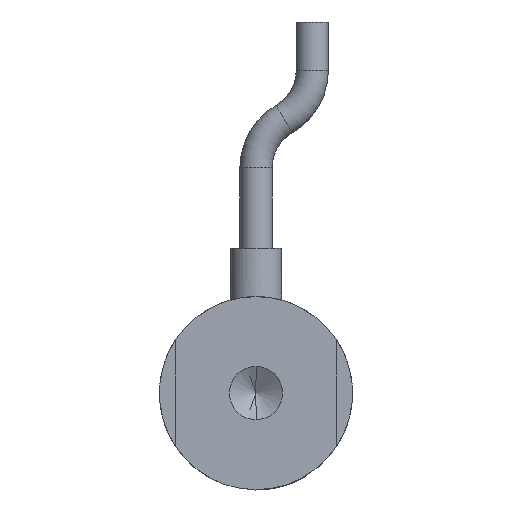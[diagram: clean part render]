
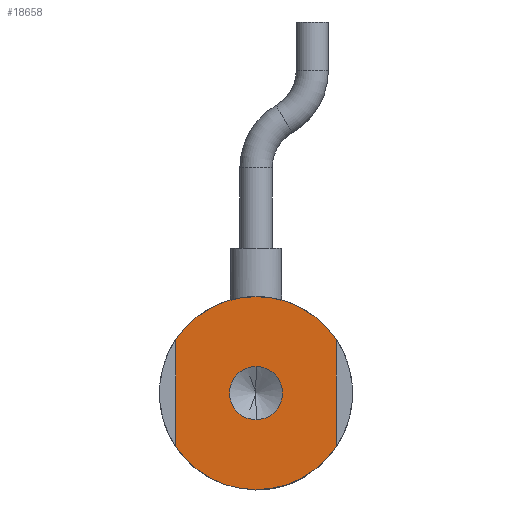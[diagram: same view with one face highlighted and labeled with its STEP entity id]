
A CAD part, front view. The second image highlights one B-rep face of the part: STEP entity #18658.
In plain terms, the highlighted planar face has unit normal (0, -1, 0).
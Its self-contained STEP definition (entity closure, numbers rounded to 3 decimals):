
#797 = DIRECTION ( 'NONE',  ( 0., 0., 1. ) ) ;
#826 = ORIENTED_EDGE ( 'NONE', *, *, #6099, .F. ) ;
#1157 = FACE_OUTER_BOUND ( 'NONE', #14823, .T. ) ;
#1257 = DIRECTION ( 'NONE',  ( 0., 0., 1. ) ) ;
#1532 = CARTESIAN_POINT ( 'NONE',  ( -5., 0., -3.317 ) ) ;
#2618 = DIRECTION ( 'NONE',  ( 0., 1., 0. ) ) ;
#2936 = AXIS2_PLACEMENT_3D ( 'NONE', #39072, #18623, #42526 ) ;
#3269 = CARTESIAN_POINT ( 'NONE',  ( 0., 0., 0. ) ) ;
#4256 = PLANE ( 'NONE',  #10808 ) ;
#4657 = CARTESIAN_POINT ( 'NONE',  ( 0., 0., 0. ) ) ;
#4698 = CARTESIAN_POINT ( 'NONE',  ( 5., 0., 0. ) ) ;
#5618 = VERTEX_POINT ( 'NONE', #6841 ) ;
#6099 = EDGE_CURVE ( 'NONE', #25998, #34844, #21871, .T. ) ;
#6239 = AXIS2_PLACEMENT_3D ( 'NONE', #4657, #29167, #8307 ) ;
#6841 = CARTESIAN_POINT ( 'NONE',  ( 0., 0., 6. ) ) ;
#7694 = LINE ( 'NONE', #4698, #35402 ) ;
#7988 = VERTEX_POINT ( 'NONE', #10805 ) ;
#8307 = DIRECTION ( 'NONE',  ( 0., 0., -1. ) ) ;
#8664 = EDGE_CURVE ( 'NONE', #5618, #24375, #9963, .T. ) ;
#8796 = EDGE_CURVE ( 'NONE', #24375, #7988, #7694, .T. ) ;
#9963 = CIRCLE ( 'NONE', #21771, 6. ) ;
#10238 = CIRCLE ( 'NONE', #15056, 6. ) ;
#10805 = CARTESIAN_POINT ( 'NONE',  ( 5., 0., -3.317 ) ) ;
#10808 = AXIS2_PLACEMENT_3D ( 'NONE', #28820, #11617, #35688 ) ;
#11327 = VERTEX_POINT ( 'NONE', #17949 ) ;
#11439 = CARTESIAN_POINT ( 'NONE',  ( 0., 0., 0. ) ) ;
#11617 = DIRECTION ( 'NONE',  ( 0., 1., 0. ) ) ;
#14648 = CARTESIAN_POINT ( 'NONE',  ( 0., 0., 0. ) ) ;
#14823 = EDGE_LOOP ( 'NONE', ( #36762, #826, #22082, #31392, #44797, #29713 ) ) ;
#15001 = DIRECTION ( 'NONE',  ( 0., 0., 1. ) ) ;
#15056 = AXIS2_PLACEMENT_3D ( 'NONE', #38569, #18130, #42026 ) ;
#16710 = VECTOR ( 'NONE', #1257, 1000. ) ;
#16913 = CARTESIAN_POINT ( 'NONE',  ( 5., 0., 3.317 ) ) ;
#17949 = CARTESIAN_POINT ( 'NONE',  ( 0., 0., -1.65 ) ) ;
#18130 = DIRECTION ( 'NONE',  ( 0., 1., 0. ) ) ;
#18136 = DIRECTION ( 'NONE',  ( 0., 0., 1. ) ) ;
#18192 = VERTEX_POINT ( 'NONE', #28330 ) ;
#18623 = DIRECTION ( 'NONE',  ( 0., -1., 0. ) ) ;
#18658 = ADVANCED_FACE ( 'NONE', ( #41602, #1157 ), #4256, .F. ) ;
#19341 = VERTEX_POINT ( 'NONE', #39491 ) ;
#20054 = CIRCLE ( 'NONE', #24509, 6. ) ;
#21771 = AXIS2_PLACEMENT_3D ( 'NONE', #11439, #35517, #15001 ) ;
#21871 = CIRCLE ( 'NONE', #30883, 6. ) ;
#22082 = ORIENTED_EDGE ( 'NONE', *, *, #27288, .F. ) ;
#22575 = CARTESIAN_POINT ( 'NONE',  ( -5., 0., 0. ) ) ;
#22826 = EDGE_CURVE ( 'NONE', #19341, #5618, #10238, .T. ) ;
#24375 = VERTEX_POINT ( 'NONE', #16913 ) ;
#24509 = AXIS2_PLACEMENT_3D ( 'NONE', #14648, #38574, #18136 ) ;
#25998 = VERTEX_POINT ( 'NONE', #29183 ) ;
#26013 = DIRECTION ( 'NONE',  ( 0., 0., -1. ) ) ;
#27288 = EDGE_CURVE ( 'NONE', #7988, #25998, #20054, .T. ) ;
#28161 = EDGE_CURVE ( 'NONE', #11327, #18192, #32360, .T. ) ;
#28330 = CARTESIAN_POINT ( 'NONE',  ( 0., 0., 1.65 ) ) ;
#28810 = ORIENTED_EDGE ( 'NONE', *, *, #32947, .F. ) ;
#28820 = CARTESIAN_POINT ( 'NONE',  ( 0., 0., 0. ) ) ;
#29167 = DIRECTION ( 'NONE',  ( 0., -1., 0. ) ) ;
#29183 = CARTESIAN_POINT ( 'NONE',  ( 0., 0., -6. ) ) ;
#29713 = ORIENTED_EDGE ( 'NONE', *, *, #22826, .F. ) ;
#30883 = AXIS2_PLACEMENT_3D ( 'NONE', #3269, #2618, #797 ) ;
#31392 = ORIENTED_EDGE ( 'NONE', *, *, #8796, .F. ) ;
#32360 = CIRCLE ( 'NONE', #6239, 1.65 ) ;
#32947 = EDGE_CURVE ( 'NONE', #18192, #11327, #36071, .T. ) ;
#33832 = LINE ( 'NONE', #22575, #16710 ) ;
#34844 = VERTEX_POINT ( 'NONE', #1532 ) ;
#35402 = VECTOR ( 'NONE', #26013, 1000. ) ;
#35517 = DIRECTION ( 'NONE',  ( 0., 1., 0. ) ) ;
#35688 = DIRECTION ( 'NONE',  ( 0., 0., 1. ) ) ;
#36032 = EDGE_CURVE ( 'NONE', #34844, #19341, #33832, .T. ) ;
#36071 = CIRCLE ( 'NONE', #2936, 1.65 ) ;
#36762 = ORIENTED_EDGE ( 'NONE', *, *, #36032, .F. ) ;
#38569 = CARTESIAN_POINT ( 'NONE',  ( 0., 0., 0. ) ) ;
#38574 = DIRECTION ( 'NONE',  ( 0., 1., 0. ) ) ;
#39072 = CARTESIAN_POINT ( 'NONE',  ( 0., 0., 0. ) ) ;
#39491 = CARTESIAN_POINT ( 'NONE',  ( -5., 0., 3.317 ) ) ;
#41602 = FACE_BOUND ( 'NONE', #43911, .T. ) ;
#42026 = DIRECTION ( 'NONE',  ( 0., 0., 1. ) ) ;
#42526 = DIRECTION ( 'NONE',  ( 0., 0., -1. ) ) ;
#42935 = ORIENTED_EDGE ( 'NONE', *, *, #28161, .F. ) ;
#43911 = EDGE_LOOP ( 'NONE', ( #42935, #28810 ) ) ;
#44797 = ORIENTED_EDGE ( 'NONE', *, *, #8664, .F. ) ;
